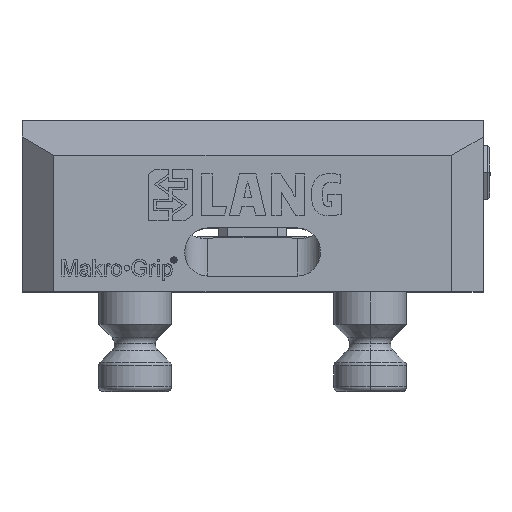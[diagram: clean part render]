
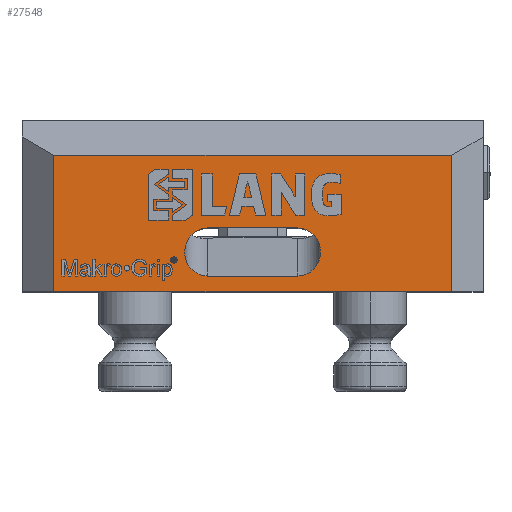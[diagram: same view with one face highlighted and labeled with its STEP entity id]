
A CAD part, top view. The second image highlights one B-rep face of the part: STEP entity #27548.
In plain terms, the highlighted planar face has unit normal (0, 0, 1).
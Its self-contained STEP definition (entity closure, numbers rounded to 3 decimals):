
#793 = CARTESIAN_POINT ( 'NONE',  ( 51., 3.487, 38.5 ) ) ;
#1029 = DIRECTION ( 'NONE',  ( 1., 0., 0. ) ) ;
#1370 =( BOUNDED_CURVE ( )  B_SPLINE_CURVE ( 3, ( #37512, #38198, #1538, #15662 ),
 .UNSPECIFIED., .F., .F. ) 
 B_SPLINE_CURVE_WITH_KNOTS ( ( 4, 4 ),
 ( 3.142, 4.712 ),
 .UNSPECIFIED. ) 
 CURVE ( )  GEOMETRIC_REPRESENTATION_ITEM ( )  RATIONAL_B_SPLINE_CURVE ( ( 1., 0.805, 0.805, 1. ) ) 
 REPRESENTATION_ITEM ( '' )  );
#1538 = CARTESIAN_POINT ( 'NONE',  ( 15., 11.925, 38.5 ) ) ;
#1730 = EDGE_CURVE ( 'NONE', #37263, #33946, #33542, .T. ) ;
#2537 = ORIENTED_EDGE ( 'NONE', *, *, #43877, .F. ) ;
#2667 =( BOUNDED_CURVE ( )  B_SPLINE_CURVE ( 3, ( #28914, #43346, #39137, #32235 ),
 .UNSPECIFIED., .F., .F. ) 
 B_SPLINE_CURVE_WITH_KNOTS ( ( 4, 4 ),
 ( 0., 1.571 ),
 .UNSPECIFIED. ) 
 CURVE ( )  GEOMETRIC_REPRESENTATION_ITEM ( )  RATIONAL_B_SPLINE_CURVE ( ( 1., 0.805, 0.805, 1. ) ) 
 REPRESENTATION_ITEM ( '' )  );
#3426 = CARTESIAN_POINT ( 'NONE',  ( -15., 8.808, 38.5 ) ) ;
#3700 = VECTOR ( 'NONE', #15325, 1000. ) ;
#4584 = EDGE_CURVE ( 'NONE', #37263, #37758, #22164, .T. ) ;
#4727 =( BOUNDED_CURVE ( )  B_SPLINE_CURVE ( 3, ( #14115, #28576, #36169, #17903 ),
 .UNSPECIFIED., .F., .F. ) 
 B_SPLINE_CURVE_WITH_KNOTS ( ( 4, 4 ),
 ( 1.571, 3.142 ),
 .UNSPECIFIED. ) 
 CURVE ( )  GEOMETRIC_REPRESENTATION_ITEM ( )  RATIONAL_B_SPLINE_CURVE ( ( 1., 0.805, 0.805, 1. ) ) 
 REPRESENTATION_ITEM ( '' )  );
#5031 = EDGE_CURVE ( 'NONE', #46615, #30264, #1370, .T. ) ;
#5842 = CARTESIAN_POINT ( 'NONE',  ( 51., 0., 38.5 ) ) ;
#5870 = ORIENTED_EDGE ( 'NONE', *, *, #1730, .T. ) ;
#6071 = FACE_OUTER_BOUND ( 'NONE', #33761, .T. ) ;
#7953 = CARTESIAN_POINT ( 'NONE',  ( -10., 14.129, 38.5 ) ) ;
#8808 = ORIENTED_EDGE ( 'NONE', *, *, #4584, .F. ) ;
#11564 = CARTESIAN_POINT ( 'NONE',  ( -44., 30.206, 38.5 ) ) ;
#12255 = VERTEX_POINT ( 'NONE', #18859 ) ;
#12889 = CARTESIAN_POINT ( 'NONE',  ( 44., 0., 38.5 ) ) ;
#13400 = CARTESIAN_POINT ( 'NONE',  ( 15., 8.808, 38.5 ) ) ;
#14115 = CARTESIAN_POINT ( 'NONE',  ( 15., 8.808, 38.5 ) ) ;
#15132 = VECTOR ( 'NONE', #23562, 1000. ) ;
#15325 = DIRECTION ( 'NONE',  ( -1., 0., 0. ) ) ;
#15486 = CARTESIAN_POINT ( 'NONE',  ( 10., 3.487, 38.5 ) ) ;
#15567 = EDGE_CURVE ( 'NONE', #30264, #28960, #4727, .T. ) ;
#15662 = CARTESIAN_POINT ( 'NONE',  ( 15., 8.808, 38.5 ) ) ;
#15802 = EDGE_CURVE ( 'NONE', #43448, #37758, #39624, .T. ) ;
#16087 = VECTOR ( 'NONE', #1029, 1000. ) ;
#17416 = VECTOR ( 'NONE', #31312, 1000. ) ;
#17903 = CARTESIAN_POINT ( 'NONE',  ( 10., 3.487, 38.5 ) ) ;
#18125 = CARTESIAN_POINT ( 'NONE',  ( -15., 8.808, 38.5 ) ) ;
#18416 = AXIS2_PLACEMENT_3D ( 'NONE', #5842, #45516, #34512 ) ;
#18859 = CARTESIAN_POINT ( 'NONE',  ( -10., 14.129, 38.5 ) ) ;
#19245 = ORIENTED_EDGE ( 'NONE', *, *, #15802, .T. ) ;
#19521 = ORIENTED_EDGE ( 'NONE', *, *, #22243, .T. ) ;
#20736 = PLANE ( 'NONE',  #18416 ) ;
#20832 = ORIENTED_EDGE ( 'NONE', *, *, #15567, .T. ) ;
#21015 = VECTOR ( 'NONE', #36638, 1000. ) ;
#21369 = CARTESIAN_POINT ( 'NONE',  ( -44., 0., 38.5 ) ) ;
#21520 = ORIENTED_EDGE ( 'NONE', *, *, #40721, .T. ) ;
#22164 = LINE ( 'NONE', #36869, #21015 ) ;
#22243 = EDGE_CURVE ( 'NONE', #43980, #12255, #24034, .T. ) ;
#22876 = CARTESIAN_POINT ( 'NONE',  ( 44., 38., 38.5 ) ) ;
#23145 = LINE ( 'NONE', #43962, #3700 ) ;
#23562 = DIRECTION ( 'NONE',  ( 0., 1., 0. ) ) ;
#24034 =( BOUNDED_CURVE ( )  B_SPLINE_CURVE ( 3, ( #18125, #43236, #29486, #7953 ),
 .UNSPECIFIED., .F., .F. ) 
 B_SPLINE_CURVE_WITH_KNOTS ( ( 4, 4 ),
 ( 4.712, 6.283 ),
 .UNSPECIFIED. ) 
 CURVE ( )  GEOMETRIC_REPRESENTATION_ITEM ( )  RATIONAL_B_SPLINE_CURVE ( ( 1., 0.805, 0.805, 1. ) ) 
 REPRESENTATION_ITEM ( '' )  );
#24562 = ORIENTED_EDGE ( 'NONE', *, *, #27368, .F. ) ;
#26917 = VERTEX_POINT ( 'NONE', #27564 ) ;
#27368 = EDGE_CURVE ( 'NONE', #26917, #28960, #33403, .T. ) ;
#27548 = ADVANCED_FACE ( 'NONE', ( #42281, #6071 ), #20736, .F. ) ;
#27564 = CARTESIAN_POINT ( 'NONE',  ( -10., 3.487, 38.5 ) ) ;
#27985 = CARTESIAN_POINT ( 'NONE',  ( -51., 30.206, 38.5 ) ) ;
#28230 = DIRECTION ( 'NONE',  ( 1., 0., 0. ) ) ;
#28576 = CARTESIAN_POINT ( 'NONE',  ( 15., 5.691, 38.5 ) ) ;
#28914 = CARTESIAN_POINT ( 'NONE',  ( -10., 3.487, 38.5 ) ) ;
#28960 = VERTEX_POINT ( 'NONE', #15486 ) ;
#29486 = CARTESIAN_POINT ( 'NONE',  ( -12.929, 14.129, 38.5 ) ) ;
#30264 = VERTEX_POINT ( 'NONE', #13400 ) ;
#31312 = DIRECTION ( 'NONE',  ( 0., -1., 0. ) ) ;
#31749 = ORIENTED_EDGE ( 'NONE', *, *, #36762, .F. ) ;
#32235 = CARTESIAN_POINT ( 'NONE',  ( -15., 8.808, 38.5 ) ) ;
#32274 = EDGE_LOOP ( 'NONE', ( #24562, #21520, #19521, #31749, #36061, #20832 ) ) ;
#33403 = LINE ( 'NONE', #793, #16087 ) ;
#33542 = LINE ( 'NONE', #22876, #15132 ) ;
#33761 = EDGE_LOOP ( 'NONE', ( #5870, #2537, #19245, #8808 ) ) ;
#33946 = VERTEX_POINT ( 'NONE', #41165 ) ;
#34512 = DIRECTION ( 'NONE',  ( -1., 0., 0. ) ) ;
#34876 = CARTESIAN_POINT ( 'NONE',  ( -44., 0., 38.5 ) ) ;
#35652 = CARTESIAN_POINT ( 'NONE',  ( 10., 14.129, 38.5 ) ) ;
#36061 = ORIENTED_EDGE ( 'NONE', *, *, #5031, .T. ) ;
#36169 = CARTESIAN_POINT ( 'NONE',  ( 12.929, 3.487, 38.5 ) ) ;
#36638 = DIRECTION ( 'NONE',  ( -1., 0., 0. ) ) ;
#36762 = EDGE_CURVE ( 'NONE', #46615, #12255, #23145, .T. ) ;
#36869 = CARTESIAN_POINT ( 'NONE',  ( 51., 0., 38.5 ) ) ;
#37263 = VERTEX_POINT ( 'NONE', #12889 ) ;
#37512 = CARTESIAN_POINT ( 'NONE',  ( 10., 14.129, 38.5 ) ) ;
#37758 = VERTEX_POINT ( 'NONE', #21369 ) ;
#38198 = CARTESIAN_POINT ( 'NONE',  ( 12.929, 14.129, 38.5 ) ) ;
#39137 = CARTESIAN_POINT ( 'NONE',  ( -15., 5.691, 38.5 ) ) ;
#39624 = LINE ( 'NONE', #34876, #17416 ) ;
#40721 = EDGE_CURVE ( 'NONE', #26917, #43980, #2667, .T. ) ;
#41165 = CARTESIAN_POINT ( 'NONE',  ( 44., 30.206, 38.5 ) ) ;
#42076 = VECTOR ( 'NONE', #28230, 1000. ) ;
#42281 = FACE_BOUND ( 'NONE', #32274, .T. ) ;
#43236 = CARTESIAN_POINT ( 'NONE',  ( -15., 11.925, 38.5 ) ) ;
#43346 = CARTESIAN_POINT ( 'NONE',  ( -12.929, 3.487, 38.5 ) ) ;
#43448 = VERTEX_POINT ( 'NONE', #11564 ) ;
#43877 = EDGE_CURVE ( 'NONE', #43448, #33946, #46156, .T. ) ;
#43962 = CARTESIAN_POINT ( 'NONE',  ( 51., 14.129, 38.5 ) ) ;
#43980 = VERTEX_POINT ( 'NONE', #3426 ) ;
#45516 = DIRECTION ( 'NONE',  ( 0., 0., -1. ) ) ;
#46156 = LINE ( 'NONE', #27985, #42076 ) ;
#46615 = VERTEX_POINT ( 'NONE', #35652 ) ;
